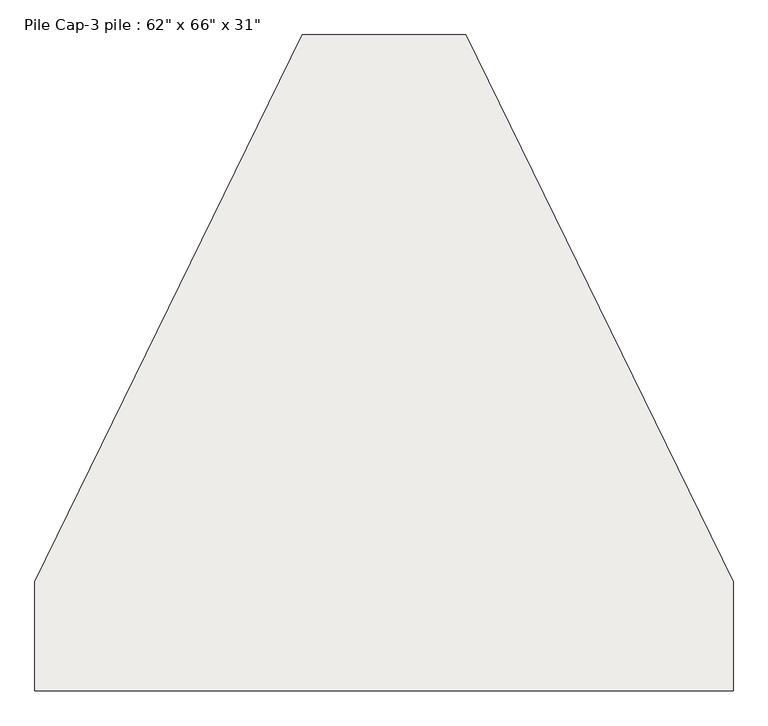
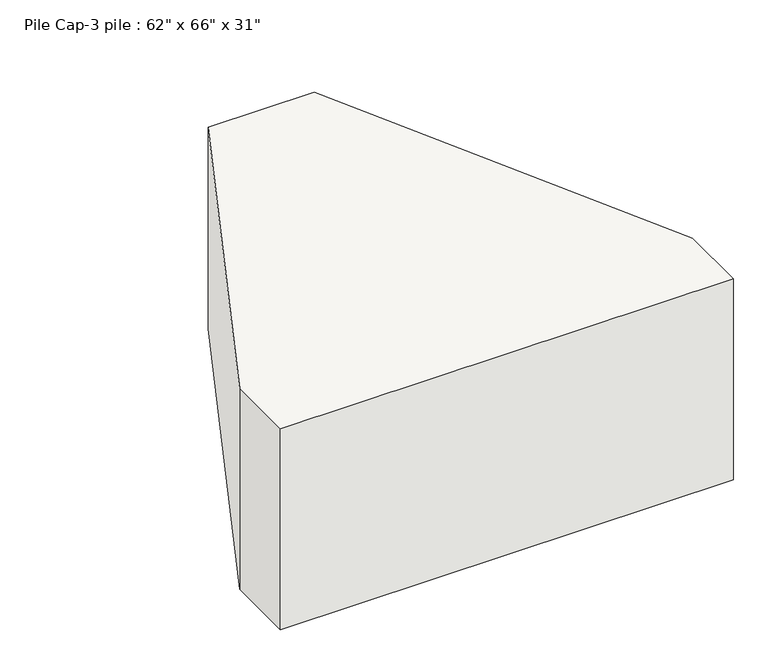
"""IFC4 building model written with IfcOpenShell, lengths in millimetres: slab geometry."""

import ifcopenshell
import ifcopenshell.guid

model = None  # the IFC model being written
_history = None  # IfcOwnerHistory: only IFC2X3 demands one
_inside = {}  # id of a spatial element -> (the spatial element, [elements in it])
_under = {}  # id of a project, library or spatial element -> (it, [spatial elements below it])
_declared = {}  # id of a project -> (the project, [libraries it declares])
_typed = {}  # id of a type object -> (the type object, [elements of that type])
_made_of = {}  # id of a material, layer set ... -> (it, [elements and type objects made of it])


def new_model(schema):
    """Start an empty IFC model of exactly this schema.

    Asked for "IFC4X3", IfcOpenShell would pick the latest addendum, in which some entities
    have other attributes; the version numbers below select the first issue.
    IFC2X3 requires an IfcOwnerHistory on every rooted entity: one is made here for all.
    """
    global model, _history
    if schema == "IFC4X3":
        model = ifcopenshell.file(schema_version=(4, 3, 0, 0))
    else:
        model = ifcopenshell.file(schema=schema)
    _inside.clear()
    _under.clear()
    _declared.clear()
    _typed.clear()
    _made_of.clear()
    _history = None
    if model.schema == "IFC2X3":
        org = make("IfcOrganization", Name="unknown")
        user = make(
            "IfcPersonAndOrganization",
            ThePerson=make("IfcPerson", FamilyName="unknown"),
            TheOrganization=org,
        )
        app = make(
            "IfcApplication",
            ApplicationDeveloper=org,
            Version="unknown",
            ApplicationFullName="unknown",
            ApplicationIdentifier="unknown",
        )
        _history = make(
            "IfcOwnerHistory",
            OwningUser=user,
            OwningApplication=app,
            ChangeAction="ADDED",
            CreationDate=0,
        )
    return model


def make(cls, **values):
    """One entity of the class cls with the attributes given. An attribute that is None is left unset."""
    return model.create_entity(
        cls, **{name: value for name, value in values.items() if value is not None}
    )


def rooted(cls, **values):
    """An entity with a GlobalId (a new one), such as an element, a storey or a relation."""
    return make(cls, GlobalId=ifcopenshell.guid.new(), OwnerHistory=_history, **values)


def si_unit(unit_type, name, prefix=None):
    """IfcSIUnit, for example si_unit("LENGTHUNIT", "METRE", prefix="MILLI")."""
    return make("IfcSIUnit", UnitType=unit_type, Prefix=prefix, Name=name)


def assignment(units):
    """IfcUnitAssignment: the units of a project."""
    return None if units is None else make("IfcUnitAssignment", Units=units)


def point(xyz):
    """IfcCartesianPoint."""
    return None if xyz is None else make("IfcCartesianPoint", Coordinates=xyz)


def direction(xyz):
    """IfcDirection."""
    return None if xyz is None else make("IfcDirection", DirectionRatios=xyz)


def frame(location, z_axis=None, x_axis=None):
    """IfcAxis2Placement3D, a coordinate frame: its origin and axes. An axis left out is left unset."""
    return make(
        "IfcAxis2Placement3D",
        Location=point(location),
        Axis=direction(z_axis),
        RefDirection=direction(x_axis),
    )


def origin():
    """The frame at (0, 0, 0) with its axes left unset."""
    return frame((0.0, 0.0, 0.0))


def place(relative_to, where):
    """IfcLocalPlacement: puts the frame where relative to a parent placement (None: the world)."""
    return make(
        "IfcLocalPlacement", PlacementRelTo=relative_to, RelativePlacement=where
    )


def context(
    kind, dimensions, precision=None, world=None, true_north=None, identifier=None
):
    """IfcGeometricRepresentationContext, for example the 3D "Model" context."""
    return make(
        "IfcGeometricRepresentationContext",
        ContextIdentifier=identifier,
        ContextType=kind,
        CoordinateSpaceDimension=dimensions,
        Precision=precision,
        WorldCoordinateSystem=world,
        TrueNorth=true_north,
    )


def project(units=None, contexts=None):
    """IfcProject with its units and contexts."""
    return rooted(
        "IfcProject",
        Name="project",
        RepresentationContexts=contexts,
        UnitsInContext=assignment(units),
    )


def spatial(cls, under=None, at=None, **own):
    """A site, building, storey or space (cls), placed at a placement, below another one or the project."""
    s = rooted(cls, ObjectPlacement=at, **own)
    if under is not None:
        _under.setdefault(under.id(), (under, []))[1].append(s)
    return s


def polyline(points):
    """IfcPolyline through the points."""
    return make("IfcPolyline", Points=[point(p) for p in points])


def outline(outer, holes=None, kind="AREA"):
    """IfcArbitraryClosedProfileDef: a profile drawn as a closed curve; with holes, ...WithVoids."""
    if holes is None:
        return make("IfcArbitraryClosedProfileDef", ProfileType=kind, OuterCurve=outer)
    return make(
        "IfcArbitraryProfileDefWithVoids",
        ProfileType=kind,
        OuterCurve=outer,
        InnerCurves=holes,
    )


def extrude(swept, where, along, depth):
    """IfcExtrudedAreaSolid: the profile swept, set in the frame where, extruded along a direction by depth."""
    return make(
        "IfcExtrudedAreaSolid",
        SweptArea=swept,
        Position=where,
        ExtrudedDirection=direction(along),
        Depth=depth,
    )


def shape(context_of_items, identifier, shape_type, items):
    """IfcShapeRepresentation: the items that make up one representation, for example the "Body"."""
    return make(
        "IfcShapeRepresentation",
        ContextOfItems=context_of_items,
        RepresentationIdentifier=identifier,
        RepresentationType=shape_type,
        Items=items,
    )


def source(mapping_origin, context_of_items, identifier, shape_type, items):
    """IfcRepresentationMap: a shape defined once, which mapped items show again and again."""
    return make(
        "IfcRepresentationMap",
        MappingOrigin=mapping_origin,
        MappedRepresentation=shape(context_of_items, identifier, shape_type, items),
    )


def transform(
    local_origin,
    x_axis=None,
    y_axis=None,
    z_axis=None,
    scale=None,
    scale2=None,
    scale3=None,
    uniform=True,
):
    """IfcCartesianTransformationOperator3D, or its non-uniform kind. x_axis, y_axis, z_axis: its Axis1, 2, 3."""
    if uniform:
        return make(
            "IfcCartesianTransformationOperator3D",
            Axis1=direction(x_axis),
            Axis2=direction(y_axis),
            LocalOrigin=point(local_origin),
            Scale=scale,
            Axis3=direction(z_axis),
        )
    return make(
        "IfcCartesianTransformationOperator3DnonUniform",
        Axis1=direction(x_axis),
        Axis2=direction(y_axis),
        LocalOrigin=point(local_origin),
        Scale=scale,
        Axis3=direction(z_axis),
        Scale2=scale2,
        Scale3=scale3,
    )


def mapped(mapping_source, mapping_target):
    """IfcMappedItem: shows the shape of a source again, moved by a transform."""
    return make(
        "IfcMappedItem", MappingSource=mapping_source, MappingTarget=mapping_target
    )


def made_of(thing, what):
    """Note that an element or type object is made of a material, layer set ...; save() writes the relation."""
    if what is not None:
        _made_of.setdefault(what.id(), (what, []))[1].append(thing)
    return thing


def element(
    cls,
    number,
    at=None,
    inside=None,
    cuts=None,
    type_object=None,
    material=None,
    context=None,
    identifier="Body",
    shape_type=None,
    held_by="IfcProductDefinitionShape",
    body=None,
    shapes=None,
    **own,
):
    """One element of the class cls, such as IfcWall. Its Tag is "e" and its number.

    at: its placement. inside: the storey or other place that contains it. cuts: it is an
    opening in that element (IfcRelVoidsElement). A single representation is given by context,
    identifier, shape_type and body (its items); several are given by shapes. held_by: the class
    of the entity that holds the representations. save() writes the other relations.
    """
    e = rooted(cls, Tag="e%d" % number, ObjectPlacement=at, **own)
    if body is not None:
        shapes = [shape(context, identifier, shape_type, body)]
    if shapes is not None:
        e.Representation = make(held_by, Representations=shapes)
    if inside is not None:
        _inside.setdefault(inside.id(), (inside, []))[1].append(e)
    if cuts is not None:
        rooted(
            "IfcRelVoidsElement", RelatingBuildingElement=cuts, RelatedOpeningElement=e
        )
    if type_object is not None:
        _typed.setdefault(type_object.id(), (type_object, []))[1].append(e)
    return made_of(e, material)


def aggregate(whole, parts):
    """IfcRelAggregates: a whole, such as a stair, and the parts it consists of."""
    return rooted("IfcRelAggregates", RelatingObject=whole, RelatedObjects=parts)


def save(model, path):
    """Write the relations noted so far, then the file.

    IfcRelAggregates (storeys below a building ...), IfcRelContainedInSpatialStructure (elements
    in a storey), IfcRelDefinesByType, IfcRelAssociatesMaterial and IfcRelDeclares: one each for
    every whole, place, type object, material and project.
    """
    for whole, parts in _under.values():
        aggregate(whole, parts)
    for where, things in _inside.values():
        rooted(
            "IfcRelContainedInSpatialStructure",
            RelatedElements=things,
            RelatingStructure=where,
        )
    for kind, things in _typed.values():
        rooted("IfcRelDefinesByType", RelatedObjects=things, RelatingType=kind)
    for what, things in _made_of.values():
        rooted("IfcRelAssociatesMaterial", RelatedObjects=things, RelatingMaterial=what)
    for by, libraries in _declared.values():
        rooted("IfcRelDeclares", RelatingContext=by, RelatedDefinitions=libraries)
    model.write(path)


def slab_cfe150fb(model_context):
    return source(origin(), model_context, "Body", "SweptSolid", [
        extrude(outline(polyline([(-838.2, -262.2042), (-196.65315, 1050.3916), (196.65315, 1050.3916), (838.2, -262.2042), (838.2, -524.4084), (-838.2, -524.4084), (-838.2, -262.2042)])), frame((0.0, 0.0, -787.4), z_axis=(0.0, 0.0, 1.0), x_axis=(1.0, 0.0, 0.0)), (0.0, 0.0, 1.0), 787.4),
    ])


if __name__ == "__main__":
    model = new_model("IFC4")
    model_context = context("Model", 3, world=origin())
    ifc_project = project(units=[si_unit("LENGTHUNIT", "METRE", prefix="MILLI")], contexts=[model_context])
    site = spatial("IfcSite", under=ifc_project)
    building = spatial("IfcBuilding", under=site)
    placement = place(None, origin())
    slab_shape = slab_cfe150fb(model_context)
    element("IfcSlab", 1, ObjectType="Pile Cap-3 pile : 62\" x 66\" x 31\"", at=placement, inside=building, context=model_context, shape_type="MappedRepresentation", body=[
        mapped(slab_shape, transform((0.0, 0.0, 0.0), x_axis=(1.0, 0.0, 0.0), y_axis=(0.0, 1.0, 0.0), z_axis=(0.0, 0.0, 1.0))),
    ])
    save(model, "model.ifc")
